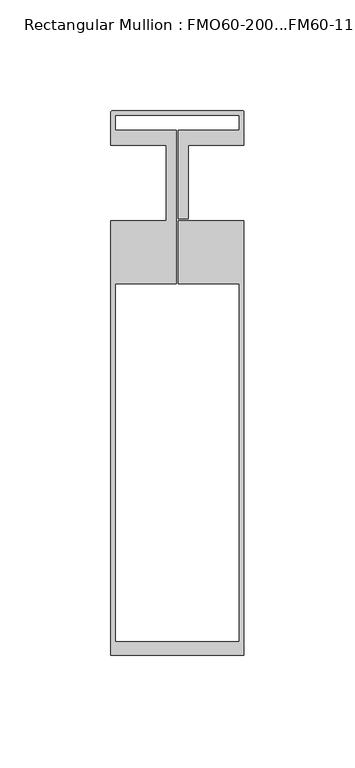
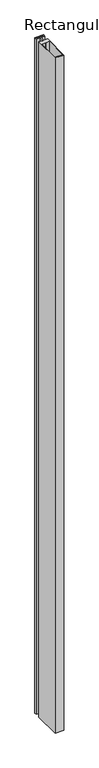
"""IFC4 building model written with IfcOpenShell, lengths in millimetres: member geometry, Rectangular Mullion : FMO60-200...FM60-11."""

import ifcopenshell
import ifcopenshell.guid

model = None  # the IFC model being written
_history = None  # IfcOwnerHistory: only IFC2X3 demands one
_inside = {}  # id of a spatial element -> (the spatial element, [elements in it])
_under = {}  # id of a project, library or spatial element -> (it, [spatial elements below it])
_declared = {}  # id of a project -> (the project, [libraries it declares])
_typed = {}  # id of a type object -> (the type object, [elements of that type])
_made_of = {}  # id of a material, layer set ... -> (it, [elements and type objects made of it])


def new_model(schema):
    """Start an empty IFC model of exactly this schema.

    Asked for "IFC4X3", IfcOpenShell would pick the latest addendum, in which some entities
    have other attributes; the version numbers below select the first issue.
    IFC2X3 requires an IfcOwnerHistory on every rooted entity: one is made here for all.
    """
    global model, _history
    if schema == "IFC4X3":
        model = ifcopenshell.file(schema_version=(4, 3, 0, 0))
    else:
        model = ifcopenshell.file(schema=schema)
    _inside.clear()
    _under.clear()
    _declared.clear()
    _typed.clear()
    _made_of.clear()
    _history = None
    if model.schema == "IFC2X3":
        org = make("IfcOrganization", Name="unknown")
        user = make(
            "IfcPersonAndOrganization",
            ThePerson=make("IfcPerson", FamilyName="unknown"),
            TheOrganization=org,
        )
        app = make(
            "IfcApplication",
            ApplicationDeveloper=org,
            Version="unknown",
            ApplicationFullName="unknown",
            ApplicationIdentifier="unknown",
        )
        _history = make(
            "IfcOwnerHistory",
            OwningUser=user,
            OwningApplication=app,
            ChangeAction="ADDED",
            CreationDate=0,
        )
    return model


def make(cls, **values):
    """One entity of the class cls with the attributes given. An attribute that is None is left unset."""
    return model.create_entity(
        cls, **{name: value for name, value in values.items() if value is not None}
    )


def rooted(cls, **values):
    """An entity with a GlobalId (a new one), such as an element, a storey or a relation."""
    return make(cls, GlobalId=ifcopenshell.guid.new(), OwnerHistory=_history, **values)


def si_unit(unit_type, name, prefix=None):
    """IfcSIUnit, for example si_unit("LENGTHUNIT", "METRE", prefix="MILLI")."""
    return make("IfcSIUnit", UnitType=unit_type, Prefix=prefix, Name=name)


def assignment(units):
    """IfcUnitAssignment: the units of a project."""
    return None if units is None else make("IfcUnitAssignment", Units=units)


def point(xyz):
    """IfcCartesianPoint."""
    return None if xyz is None else make("IfcCartesianPoint", Coordinates=xyz)


def direction(xyz):
    """IfcDirection."""
    return None if xyz is None else make("IfcDirection", DirectionRatios=xyz)


def frame(location, z_axis=None, x_axis=None):
    """IfcAxis2Placement3D, a coordinate frame: its origin and axes. An axis left out is left unset."""
    return make(
        "IfcAxis2Placement3D",
        Location=point(location),
        Axis=direction(z_axis),
        RefDirection=direction(x_axis),
    )


def frame_2d(location, x_axis=None):
    """IfcAxis2Placement2D, a coordinate frame in the plane: its origin and x axis."""
    return make(
        "IfcAxis2Placement2D", Location=point(location), RefDirection=direction(x_axis)
    )


def origin():
    """The frame at (0, 0, 0) with its axes left unset."""
    return frame((0.0, 0.0, 0.0))


def place(relative_to, where):
    """IfcLocalPlacement: puts the frame where relative to a parent placement (None: the world)."""
    return make(
        "IfcLocalPlacement", PlacementRelTo=relative_to, RelativePlacement=where
    )


def context(
    kind, dimensions, precision=None, world=None, true_north=None, identifier=None
):
    """IfcGeometricRepresentationContext, for example the 3D "Model" context."""
    return make(
        "IfcGeometricRepresentationContext",
        ContextIdentifier=identifier,
        ContextType=kind,
        CoordinateSpaceDimension=dimensions,
        Precision=precision,
        WorldCoordinateSystem=world,
        TrueNorth=true_north,
    )


def project(units=None, contexts=None):
    """IfcProject with its units and contexts."""
    return rooted(
        "IfcProject",
        Name="project",
        RepresentationContexts=contexts,
        UnitsInContext=assignment(units),
    )


def spatial(cls, under=None, at=None, **own):
    """A site, building, storey or space (cls), placed at a placement, below another one or the project."""
    s = rooted(cls, ObjectPlacement=at, **own)
    if under is not None:
        _under.setdefault(under.id(), (under, []))[1].append(s)
    return s


def polyline(points):
    """IfcPolyline through the points."""
    return make("IfcPolyline", Points=[point(p) for p in points])


def circle_curve(where, radius):
    """IfcCircle in the frame where."""
    return make("IfcCircle", Position=where, Radius=radius)


def trimmed(basis, trim1, trim2, sense, master):
    """IfcTrimmedCurve: the piece of a basis curve between two trims."""
    return make(
        "IfcTrimmedCurve",
        BasisCurve=basis,
        Trim1=trim1,
        Trim2=trim2,
        SenseAgreement=sense,
        MasterRepresentation=master,
    )


def segment(curve, same_sense, transition):
    """IfcCompositeCurveSegment."""
    return make(
        "IfcCompositeCurveSegment",
        Transition=transition,
        SameSense=same_sense,
        ParentCurve=curve,
    )


def composite_curve(segments, self_intersect=None):
    """IfcCompositeCurve: segments joined end to end."""
    return make("IfcCompositeCurve", Segments=segments, SelfIntersect=self_intersect)


def outline(outer, holes=None, kind="AREA"):
    """IfcArbitraryClosedProfileDef: a profile drawn as a closed curve; with holes, ...WithVoids."""
    if holes is None:
        return make("IfcArbitraryClosedProfileDef", ProfileType=kind, OuterCurve=outer)
    return make(
        "IfcArbitraryProfileDefWithVoids",
        ProfileType=kind,
        OuterCurve=outer,
        InnerCurves=holes,
    )


def extrude(swept, where, along, depth):
    """IfcExtrudedAreaSolid: the profile swept, set in the frame where, extruded along a direction by depth."""
    return make(
        "IfcExtrudedAreaSolid",
        SweptArea=swept,
        Position=where,
        ExtrudedDirection=direction(along),
        Depth=depth,
    )


def shape(context_of_items, identifier, shape_type, items):
    """IfcShapeRepresentation: the items that make up one representation, for example the "Body"."""
    return make(
        "IfcShapeRepresentation",
        ContextOfItems=context_of_items,
        RepresentationIdentifier=identifier,
        RepresentationType=shape_type,
        Items=items,
    )


def source(mapping_origin, context_of_items, identifier, shape_type, items):
    """IfcRepresentationMap: a shape defined once, which mapped items show again and again."""
    return make(
        "IfcRepresentationMap",
        MappingOrigin=mapping_origin,
        MappedRepresentation=shape(context_of_items, identifier, shape_type, items),
    )


def transform(
    local_origin,
    x_axis=None,
    y_axis=None,
    z_axis=None,
    scale=None,
    scale2=None,
    scale3=None,
    uniform=True,
):
    """IfcCartesianTransformationOperator3D, or its non-uniform kind. x_axis, y_axis, z_axis: its Axis1, 2, 3."""
    if uniform:
        return make(
            "IfcCartesianTransformationOperator3D",
            Axis1=direction(x_axis),
            Axis2=direction(y_axis),
            LocalOrigin=point(local_origin),
            Scale=scale,
            Axis3=direction(z_axis),
        )
    return make(
        "IfcCartesianTransformationOperator3DnonUniform",
        Axis1=direction(x_axis),
        Axis2=direction(y_axis),
        LocalOrigin=point(local_origin),
        Scale=scale,
        Axis3=direction(z_axis),
        Scale2=scale2,
        Scale3=scale3,
    )


def mapped(mapping_source, mapping_target):
    """IfcMappedItem: shows the shape of a source again, moved by a transform."""
    return make(
        "IfcMappedItem", MappingSource=mapping_source, MappingTarget=mapping_target
    )


def made_of(thing, what):
    """Note that an element or type object is made of a material, layer set ...; save() writes the relation."""
    if what is not None:
        _made_of.setdefault(what.id(), (what, []))[1].append(thing)
    return thing


def element(
    cls,
    number,
    at=None,
    inside=None,
    cuts=None,
    type_object=None,
    material=None,
    context=None,
    identifier="Body",
    shape_type=None,
    held_by="IfcProductDefinitionShape",
    body=None,
    shapes=None,
    **own,
):
    """One element of the class cls, such as IfcWall. Its Tag is "e" and its number.

    at: its placement. inside: the storey or other place that contains it. cuts: it is an
    opening in that element (IfcRelVoidsElement). A single representation is given by context,
    identifier, shape_type and body (its items); several are given by shapes. held_by: the class
    of the entity that holds the representations. save() writes the other relations.
    """
    e = rooted(cls, Tag="e%d" % number, ObjectPlacement=at, **own)
    if body is not None:
        shapes = [shape(context, identifier, shape_type, body)]
    if shapes is not None:
        e.Representation = make(held_by, Representations=shapes)
    if inside is not None:
        _inside.setdefault(inside.id(), (inside, []))[1].append(e)
    if cuts is not None:
        rooted(
            "IfcRelVoidsElement", RelatingBuildingElement=cuts, RelatedOpeningElement=e
        )
    if type_object is not None:
        _typed.setdefault(type_object.id(), (type_object, []))[1].append(e)
    return made_of(e, material)


def aggregate(whole, parts):
    """IfcRelAggregates: a whole, such as a stair, and the parts it consists of."""
    return rooted("IfcRelAggregates", RelatingObject=whole, RelatedObjects=parts)


def save(model, path):
    """Write the relations noted so far, then the file.

    IfcRelAggregates (storeys below a building ...), IfcRelContainedInSpatialStructure (elements
    in a storey), IfcRelDefinesByType, IfcRelAssociatesMaterial and IfcRelDeclares: one each for
    every whole, place, type object, material and project.
    """
    for whole, parts in _under.values():
        aggregate(whole, parts)
    for where, things in _inside.values():
        rooted(
            "IfcRelContainedInSpatialStructure",
            RelatedElements=things,
            RelatingStructure=where,
        )
    for kind, things in _typed.values():
        rooted("IfcRelDefinesByType", RelatedObjects=things, RelatingType=kind)
    for what, things in _made_of.values():
        rooted("IfcRelAssociatesMaterial", RelatedObjects=things, RelatingMaterial=what)
    for by, libraries in _declared.values():
        rooted("IfcRelDeclares", RelatingContext=by, RelatedDefinitions=libraries)
    model.write(path)


def rectangular_mullion_fmo60_200_fm60_11_f44af860(model_context):
    return source(origin(), model_context, "Body", "SweptSolid", [
        extrude(outline(composite_curve([segment(polyline([(-29.5, 32.5117899), (29.5, 32.5117899)]), True, "CONTINUOUS"), segment(trimmed(circle_curve(frame_2d((29.5, 32.0117899)), 0.5), [point((29.5, 32.5117899))], [point((30.0, 32.0117899))], False, "CARTESIAN"), True, "CONTINUOUS"), segment(polyline([(30.0, 32.0117899), (30.0, 17.0), (5.0, 17.0), (5.0, -16.2), (0.5, -16.2), (0.5, 23.8476589), (28.0000412, 23.8476589), (28.0000412, 30.5117899), (-28.0000412, 30.5117899), (-28.0000412, 23.8476589), (-0.5, 23.8476589), (-0.5, -45.5034642), (-28.0, -45.5034642), (-28.0, -207.009342), (28.0, -207.009342), (28.0, -45.5034642), (0.5, -45.5034642), (0.5, -17.0), (30.0, -17.0), (30.0, -213.009342), (-30.0, -213.009342), (-30.0, -17.0), (-5.0, -17.0), (-5.0, 17.0), (-30.0, 17.0), (-30.0, 32.0117899)]), True, "CONTINUOUS"), segment(trimmed(circle_curve(frame_2d((-29.5, 32.0117899)), 0.5), [point((-30.0, 32.0117899))], [point((-29.5, 32.5117899))], False, "CARTESIAN"), True, "CONTINUOUS")], self_intersect=False)), frame((0.0, 0.0, -5000.0), z_axis=(0.0, 0.0, 1.0), x_axis=(1.0, 0.0, 0.0)), (0.0, 0.0, 1.0), 5000.0),
    ])


if __name__ == "__main__":
    model = new_model("IFC4")
    model_context = context("Model", 3, world=origin())
    ifc_project = project(units=[si_unit("LENGTHUNIT", "METRE", prefix="MILLI")], contexts=[model_context])
    site = spatial("IfcSite", under=ifc_project)
    building = spatial("IfcBuilding", under=site)
    placement = place(None, origin())
    rectangular_mullion_fmo60_200_fm60_11_shape = rectangular_mullion_fmo60_200_fm60_11_f44af860(model_context)
    element("IfcMember", 1, ObjectType="Rectangular Mullion : FMO60-200...FM60-11", at=placement, inside=building, context=model_context, shape_type="MappedRepresentation", body=[
        mapped(rectangular_mullion_fmo60_200_fm60_11_shape, transform((0.0, 0.0, 0.0), x_axis=(1.0, 0.0, 0.0), y_axis=(0.0, 1.0, 0.0), z_axis=(0.0, 0.0, 1.0))),
    ])
    save(model, "model.ifc")
